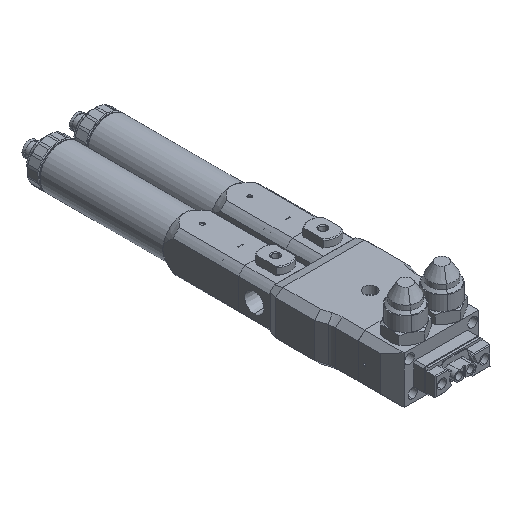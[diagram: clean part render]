
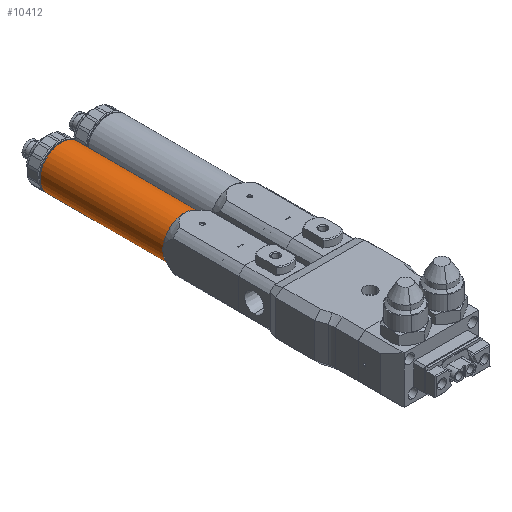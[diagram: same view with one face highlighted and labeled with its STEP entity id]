
A CAD part, isometric view. The second image highlights one B-rep face of the part: STEP entity #10412.
In plain terms, the highlighted cylindrical face has radius 13.5 mm (diameter 27 mm), a full revolution.
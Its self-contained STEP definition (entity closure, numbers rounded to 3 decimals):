
#1057 = CARTESIAN_POINT ( 'NONE',  ( -1.546, 125.78, 998.602 ) ) ;
#4432 = DIRECTION ( 'NONE',  ( 0., 1., 0. ) ) ;
#4701 = CARTESIAN_POINT ( 'NONE',  ( -1.546, 47.98, 998.602 ) ) ;
#5341 = CARTESIAN_POINT ( 'NONE',  ( 11.954, 47.98, 998.602 ) ) ;
#6196 = CARTESIAN_POINT ( 'NONE',  ( 11.954, 125.78, 998.602 ) ) ;
#7910 = AXIS2_PLACEMENT_3D ( 'NONE', #53376, #13280, #49008 ) ;
#9067 = DIRECTION ( 'NONE',  ( 1., 0., 0. ) ) ;
#10173 = VERTEX_POINT ( 'NONE', #28695 ) ;
#10412 = ADVANCED_FACE ( 'NONE', ( #49281, #36188 ), #31551, .T. ) ;
#11819 = ORIENTED_EDGE ( 'NONE', *, *, #20944, .T. ) ;
#13280 = DIRECTION ( 'NONE',  ( 0., -1., 0. ) ) ;
#14426 = DIRECTION ( 'NONE',  ( 0., -1., 0. ) ) ;
#17188 = CIRCLE ( 'NONE', #49656, 13.5 ) ;
#19823 = VERTEX_POINT ( 'NONE', #5341 ) ;
#20944 = EDGE_CURVE ( 'NONE', #31283, #10173, #42013, .T. ) ;
#23011 = EDGE_CURVE ( 'NONE', #10173, #31283, #17188, .T. ) ;
#24302 = EDGE_LOOP ( 'NONE', ( #11819, #38193 ) ) ;
#28695 = CARTESIAN_POINT ( 'NONE',  ( -15.046, 125.78, 998.602 ) ) ;
#28720 = DIRECTION ( 'NONE',  ( 1., 0., 0. ) ) ;
#31283 = VERTEX_POINT ( 'NONE', #6196 ) ;
#31551 = CYLINDRICAL_SURFACE ( 'NONE', #7910, 13.5 ) ;
#33099 = DIRECTION ( 'NONE',  ( 0., -1., 0. ) ) ;
#35335 = CIRCLE ( 'NONE', #54809, 13.5 ) ;
#36188 = FACE_OUTER_BOUND ( 'NONE', #24302, .T. ) ;
#36200 = DIRECTION ( 'NONE',  ( 1., 0., 0. ) ) ;
#38193 = ORIENTED_EDGE ( 'NONE', *, *, #23011, .T. ) ;
#38696 = EDGE_LOOP ( 'NONE', ( #50607 ) ) ;
#41654 = EDGE_CURVE ( 'NONE', #19823, #19823, #35335, .T. ) ;
#42013 = CIRCLE ( 'NONE', #42977, 13.5 ) ;
#42977 = AXIS2_PLACEMENT_3D ( 'NONE', #1057, #14426, #36200 ) ;
#49008 = DIRECTION ( 'NONE',  ( 1., 0., 0. ) ) ;
#49281 = FACE_OUTER_BOUND ( 'NONE', #38696, .T. ) ;
#49656 = AXIS2_PLACEMENT_3D ( 'NONE', #55173, #33099, #28720 ) ;
#50607 = ORIENTED_EDGE ( 'NONE', *, *, #41654, .T. ) ;
#53376 = CARTESIAN_POINT ( 'NONE',  ( -1.546, 44.899, 998.602 ) ) ;
#54809 = AXIS2_PLACEMENT_3D ( 'NONE', #4701, #4432, #9067 ) ;
#55173 = CARTESIAN_POINT ( 'NONE',  ( -1.546, 125.78, 998.602 ) ) ;
